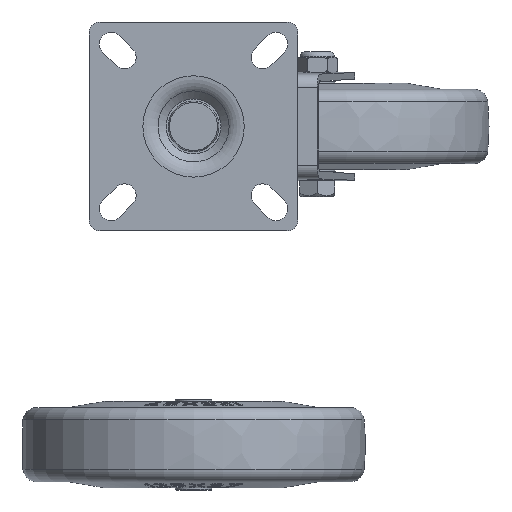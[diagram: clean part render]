
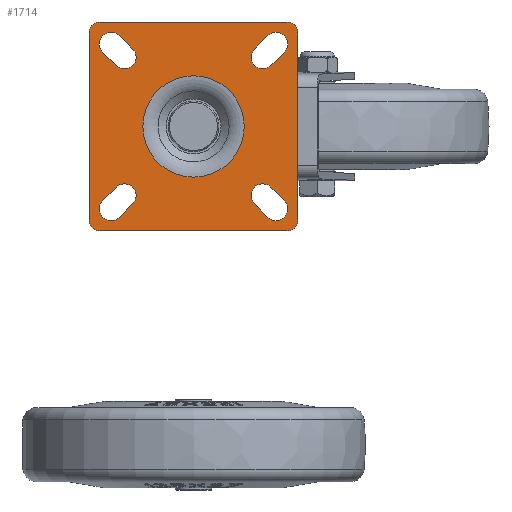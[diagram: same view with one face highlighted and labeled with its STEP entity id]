
A CAD part, front view. The second image highlights one B-rep face of the part: STEP entity #1714.
In plain terms, the highlighted planar face has unit normal (0, -1, 0) as drawn and (0, 0, -1) by its records, which use the part's own axes.
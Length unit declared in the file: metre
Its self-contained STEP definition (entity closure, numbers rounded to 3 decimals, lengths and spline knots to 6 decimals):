
#1714=ADVANCED_FACE('',(#4237,#4238,#4239,#4240,#4241,#4242),#4243,.T.);
#4237=FACE_OUTER_BOUND('',#8720,.T.);
#4238=FACE_BOUND('',#8721,.T.);
#4239=FACE_BOUND('',#8722,.T.);
#4240=FACE_BOUND('',#8723,.T.);
#4241=FACE_BOUND('',#8724,.T.);
#4242=FACE_BOUND('',#8725,.T.);
#4243=PLANE('',#8726);
#8720=EDGE_LOOP('',(#21152,#21153,#21154,#21155,#21156,#21157,#21158,#21159));
#8721=EDGE_LOOP('',(#21160));
#8722=EDGE_LOOP('',(#21161,#21162,#21163,#21164));
#8723=EDGE_LOOP('',(#21165,#21166,#21167,#21168));
#8724=EDGE_LOOP('',(#21169,#21170,#21171,#21172));
#8725=EDGE_LOOP('',(#21173,#21174,#21175,#21176));
#8726=AXIS2_PLACEMENT_3D('',#21177,#21178,#21179);
#21152=ORIENTED_EDGE('',*,*,#28074,.T.);
#21153=ORIENTED_EDGE('',*,*,#28075,.F.);
#21154=ORIENTED_EDGE('',*,*,#28038,.T.);
#21155=ORIENTED_EDGE('',*,*,#28076,.F.);
#21156=ORIENTED_EDGE('',*,*,#28077,.T.);
#21157=ORIENTED_EDGE('',*,*,#28078,.F.);
#21158=ORIENTED_EDGE('',*,*,#28079,.T.);
#21159=ORIENTED_EDGE('',*,*,#28080,.F.);
#21160=ORIENTED_EDGE('',*,*,#28081,.F.);
#21161=ORIENTED_EDGE('',*,*,#28070,.F.);
#21162=ORIENTED_EDGE('',*,*,#28082,.F.);
#21163=ORIENTED_EDGE('',*,*,#28083,.F.);
#21164=ORIENTED_EDGE('',*,*,#28043,.F.);
#21165=ORIENTED_EDGE('',*,*,#28084,.F.);
#21166=ORIENTED_EDGE('',*,*,#28072,.F.);
#21167=ORIENTED_EDGE('',*,*,#28085,.F.);
#21168=ORIENTED_EDGE('',*,*,#28086,.F.);
#21169=ORIENTED_EDGE('',*,*,#28087,.F.);
#21170=ORIENTED_EDGE('',*,*,#28088,.F.);
#21171=ORIENTED_EDGE('',*,*,#28089,.F.);
#21172=ORIENTED_EDGE('',*,*,#28090,.F.);
#21173=ORIENTED_EDGE('',*,*,#28091,.F.);
#21174=ORIENTED_EDGE('',*,*,#28092,.F.);
#21175=ORIENTED_EDGE('',*,*,#28093,.F.);
#21176=ORIENTED_EDGE('',*,*,#28094,.F.);
#21177=CARTESIAN_POINT('',(0.0,0.0,-0.0075));
#21178=DIRECTION('',(0.0,0.0,-1.0));
#21179=DIRECTION('',(0.0,-1.0,0.0));
#28038=EDGE_CURVE('',#33779,#33780,#33781,.T.);
#28043=EDGE_CURVE('',#33788,#33790,#33791,.T.);
#28070=EDGE_CURVE('',#33839,#33788,#33841,.T.);
#28072=EDGE_CURVE('',#33842,#33844,#33845,.T.);
#28074=EDGE_CURVE('',#33847,#33848,#33849,.T.);
#28075=EDGE_CURVE('',#33779,#33848,#33850,.T.);
#28076=EDGE_CURVE('',#33851,#33780,#33852,.T.);
#28077=EDGE_CURVE('',#33851,#33853,#33854,.T.);
#28078=EDGE_CURVE('',#33855,#33853,#33856,.T.);
#28079=EDGE_CURVE('',#33855,#33857,#33858,.T.);
#28080=EDGE_CURVE('',#33847,#33857,#33859,.T.);
#28081=EDGE_CURVE('',#33860,#33860,#33861,.T.);
#28082=EDGE_CURVE('',#33862,#33839,#33863,.T.);
#28083=EDGE_CURVE('',#33790,#33862,#33864,.T.);
#28084=EDGE_CURVE('',#33844,#33865,#33866,.T.);
#28085=EDGE_CURVE('',#33867,#33842,#33868,.T.);
#28086=EDGE_CURVE('',#33865,#33867,#33869,.T.);
#28087=EDGE_CURVE('',#33870,#33871,#33872,.T.);
#28088=EDGE_CURVE('',#33873,#33870,#33874,.T.);
#28089=EDGE_CURVE('',#33875,#33873,#33876,.T.);
#28090=EDGE_CURVE('',#33871,#33875,#33877,.T.);
#28091=EDGE_CURVE('',#33878,#33879,#33880,.T.);
#28092=EDGE_CURVE('',#33881,#33878,#33882,.T.);
#28093=EDGE_CURVE('',#33883,#33881,#33884,.T.);
#28094=EDGE_CURVE('',#33879,#33883,#33885,.T.);
#33779=VERTEX_POINT('',#43514);
#33780=VERTEX_POINT('',#43515);
#33781=LINE('',#43516,#43517);
#33788=VERTEX_POINT('',#43527);
#33790=VERTEX_POINT('',#43530);
#33791=LINE('',#43531,#43532);
#33839=VERTEX_POINT('',#43592);
#33841=CIRCLE('',#43595,0.00425);
#33842=VERTEX_POINT('',#43596);
#33844=VERTEX_POINT('',#43599);
#33845=CIRCLE('',#43600,0.00425);
#33847=VERTEX_POINT('',#43603);
#33848=VERTEX_POINT('',#43604);
#33849=LINE('',#43605,#43606);
#33850=CIRCLE('',#43607,0.004);
#33851=VERTEX_POINT('',#43608);
#33852=CIRCLE('',#43609,0.004);
#33853=VERTEX_POINT('',#43610);
#33854=LINE('',#43611,#43612);
#33855=VERTEX_POINT('',#43613);
#33856=CIRCLE('',#43614,0.004);
#33857=VERTEX_POINT('',#43615);
#33858=LINE('',#43616,#43617);
#33859=CIRCLE('',#43618,0.004);
#33860=VERTEX_POINT('',#43619);
#33861=CIRCLE('',#43620,0.01845);
#33862=VERTEX_POINT('',#43621);
#33863=LINE('',#43622,#43623);
#33864=CIRCLE('',#43624,0.00425);
#33865=VERTEX_POINT('',#43625);
#33866=LINE('',#43626,#43627);
#33867=VERTEX_POINT('',#43628);
#33868=LINE('',#43629,#43630);
#33869=CIRCLE('',#43631,0.00425);
#33870=VERTEX_POINT('',#43632);
#33871=VERTEX_POINT('',#43633);
#33872=LINE('',#43634,#43635);
#33873=VERTEX_POINT('',#43636);
#33874=CIRCLE('',#43637,0.00425);
#33875=VERTEX_POINT('',#43638);
#33876=LINE('',#43639,#43640);
#33877=CIRCLE('',#43641,0.00425);
#33878=VERTEX_POINT('',#43642);
#33879=VERTEX_POINT('',#43643);
#33880=CIRCLE('',#43644,0.00425);
#33881=VERTEX_POINT('',#43645);
#33882=LINE('',#43646,#43647);
#33883=VERTEX_POINT('',#43648);
#33884=CIRCLE('',#43649,0.00425);
#33885=LINE('',#43650,#43651);
#43514=CARTESIAN_POINT('',(-0.034,0.038,-0.0075));
#43515=CARTESIAN_POINT('',(0.034,0.038,-0.0075));
#43516=CARTESIAN_POINT('',(-0.034,0.038,-0.0075));
#43517=VECTOR('',#55920,1.0);
#43527=CARTESIAN_POINT('',(-0.022145,-0.028155,-0.0075));
#43530=CARTESIAN_POINT('',(-0.026995,-0.033005,-0.0075));
#43531=CARTESIAN_POINT('',(-0.022145,-0.028155,-0.0075));
#43532=VECTOR('',#55925,1.0);
#43592=CARTESIAN_POINT('',(-0.028155,-0.022145,-0.0075));
#43595=AXIS2_PLACEMENT_3D('',#55978,#55979,#55980);
#43596=CARTESIAN_POINT('',(-0.033005,0.026995,-0.0075));
#43599=CARTESIAN_POINT('',(-0.026995,0.033005,-0.0075));
#43600=AXIS2_PLACEMENT_3D('',#55982,#55983,#55984);
#43603=CARTESIAN_POINT('',(-0.038,-0.034,-0.0075));
#43604=CARTESIAN_POINT('',(-0.038,0.034,-0.0075));
#43605=CARTESIAN_POINT('',(-0.038,-0.034,-0.0075));
#43606=VECTOR('',#55986,1.0);
#43607=AXIS2_PLACEMENT_3D('',#55987,#55988,#55989);
#43608=CARTESIAN_POINT('',(0.038,0.034,-0.0075));
#43609=AXIS2_PLACEMENT_3D('',#55990,#55991,#55992);
#43610=CARTESIAN_POINT('',(0.038,-0.034,-0.0075));
#43611=CARTESIAN_POINT('',(0.038,0.034,-0.0075));
#43612=VECTOR('',#55993,1.0);
#43613=CARTESIAN_POINT('',(0.034,-0.038,-0.0075));
#43614=AXIS2_PLACEMENT_3D('',#55994,#55995,#55996);
#43615=CARTESIAN_POINT('',(-0.034,-0.038,-0.0075));
#43616=CARTESIAN_POINT('',(0.034,-0.038,-0.0075));
#43617=VECTOR('',#55997,1.0);
#43618=AXIS2_PLACEMENT_3D('',#55998,#55999,#56000);
#43619=CARTESIAN_POINT('',(0.01845,0.0,-0.0075));
#43620=AXIS2_PLACEMENT_3D('',#56001,#56002,#56003);
#43621=CARTESIAN_POINT('',(-0.033005,-0.026995,-0.0075));
#43622=CARTESIAN_POINT('',(-0.033005,-0.026995,-0.0075));
#43623=VECTOR('',#56004,1.0);
#43624=AXIS2_PLACEMENT_3D('',#56005,#56006,#56007);
#43625=CARTESIAN_POINT('',(-0.022145,0.028155,-0.0075));
#43626=CARTESIAN_POINT('',(-0.026995,0.033005,-0.0075));
#43627=VECTOR('',#56008,1.0);
#43628=CARTESIAN_POINT('',(-0.028155,0.022145,-0.0075));
#43629=CARTESIAN_POINT('',(-0.028155,0.022145,-0.0075));
#43630=VECTOR('',#56009,1.0);
#43631=AXIS2_PLACEMENT_3D('',#56010,#56011,#56012);
#43632=CARTESIAN_POINT('',(0.026995,-0.033005,-0.0075));
#43633=CARTESIAN_POINT('',(0.022145,-0.028155,-0.0075));
#43634=CARTESIAN_POINT('',(0.026995,-0.033005,-0.0075));
#43635=VECTOR('',#56013,1.0);
#43636=CARTESIAN_POINT('',(0.033005,-0.026995,-0.0075));
#43637=AXIS2_PLACEMENT_3D('',#56014,#56015,#56016);
#43638=CARTESIAN_POINT('',(0.028155,-0.022145,-0.0075));
#43639=CARTESIAN_POINT('',(0.028155,-0.022145,-0.0075));
#43640=VECTOR('',#56017,1.0);
#43641=AXIS2_PLACEMENT_3D('',#56018,#56019,#56020);
#43642=CARTESIAN_POINT('',(0.028155,0.022145,-0.0075));
#43643=CARTESIAN_POINT('',(0.022145,0.028155,-0.0075));
#43644=AXIS2_PLACEMENT_3D('',#56021,#56022,#56023);
#43645=CARTESIAN_POINT('',(0.033005,0.026995,-0.0075));
#43646=CARTESIAN_POINT('',(0.033005,0.026995,-0.0075));
#43647=VECTOR('',#56024,1.0);
#43648=CARTESIAN_POINT('',(0.026995,0.033005,-0.0075));
#43649=AXIS2_PLACEMENT_3D('',#56025,#56026,#56027);
#43650=CARTESIAN_POINT('',(0.022145,0.028155,-0.0075));
#43651=VECTOR('',#56028,1.0);
#55920=DIRECTION('',(1.0,0.0,0.0));
#55925=DIRECTION('',(-0.707,-0.707,0.0));
#55978=CARTESIAN_POINT('',(-0.02515,-0.02515,-0.0075));
#55979=DIRECTION('',(0.0,0.0,-1.0));
#55980=DIRECTION('',(0.0,1.0,0.0));
#55982=CARTESIAN_POINT('',(-0.03,0.03,-0.0075));
#55983=DIRECTION('',(0.0,0.0,-1.0));
#55984=DIRECTION('',(0.0,1.0,0.0));
#55986=DIRECTION('',(0.0,1.0,0.0));
#55987=CARTESIAN_POINT('',(-0.034,0.034,-0.0075));
#55988=DIRECTION('',(0.0,-0.0,1.0));
#55989=DIRECTION('',(0.0,1.0,0.0));
#55990=CARTESIAN_POINT('',(0.034,0.034,-0.0075));
#55991=DIRECTION('',(0.0,0.0,1.0));
#55992=DIRECTION('',(1.0,0.0,0.0));
#55993=DIRECTION('',(0.0,-1.0,0.0));
#55994=CARTESIAN_POINT('',(0.034,-0.034,-0.0075));
#55995=DIRECTION('',(0.0,0.0,1.0));
#55996=DIRECTION('',(0.0,-1.0,0.0));
#55997=DIRECTION('',(-1.0,0.0,0.0));
#55998=CARTESIAN_POINT('',(-0.034,-0.034,-0.0075));
#55999=DIRECTION('',(0.0,0.0,1.0));
#56000=DIRECTION('',(-1.0,0.0,0.0));
#56001=CARTESIAN_POINT('',(0.0,0.0,-0.0075));
#56002=DIRECTION('',(0.0,0.0,-1.0));
#56003=DIRECTION('',(1.0,0.0,0.0));
#56004=DIRECTION('',(0.707,0.707,0.0));
#56005=CARTESIAN_POINT('',(-0.03,-0.03,-0.0075));
#56006=DIRECTION('',(0.0,0.0,-1.0));
#56007=DIRECTION('',(0.0,-1.0,0.0));
#56008=DIRECTION('',(0.707,-0.707,0.0));
#56009=DIRECTION('',(-0.707,0.707,0.0));
#56010=CARTESIAN_POINT('',(-0.02515,0.02515,-0.0075));
#56011=DIRECTION('',(0.0,0.0,-1.0));
#56012=DIRECTION('',(0.0,-1.0,0.0));
#56013=DIRECTION('',(-0.707,0.707,0.0));
#56014=CARTESIAN_POINT('',(0.03,-0.03,-0.0075));
#56015=DIRECTION('',(0.0,0.0,-1.0));
#56016=DIRECTION('',(0.0,-1.0,0.0));
#56017=DIRECTION('',(0.707,-0.707,0.0));
#56018=CARTESIAN_POINT('',(0.02515,-0.02515,-0.0075));
#56019=DIRECTION('',(0.0,0.0,-1.0));
#56020=DIRECTION('',(0.0,1.0,0.0));
#56021=CARTESIAN_POINT('',(0.02515,0.02515,-0.0075));
#56022=DIRECTION('',(0.0,0.0,-1.0));
#56023=DIRECTION('',(0.0,-1.0,0.0));
#56024=DIRECTION('',(-0.707,-0.707,0.0));
#56025=CARTESIAN_POINT('',(0.03,0.03,-0.0075));
#56026=DIRECTION('',(0.0,0.0,-1.0));
#56027=DIRECTION('',(0.0,1.0,0.0));
#56028=DIRECTION('',(0.707,0.707,0.0));
